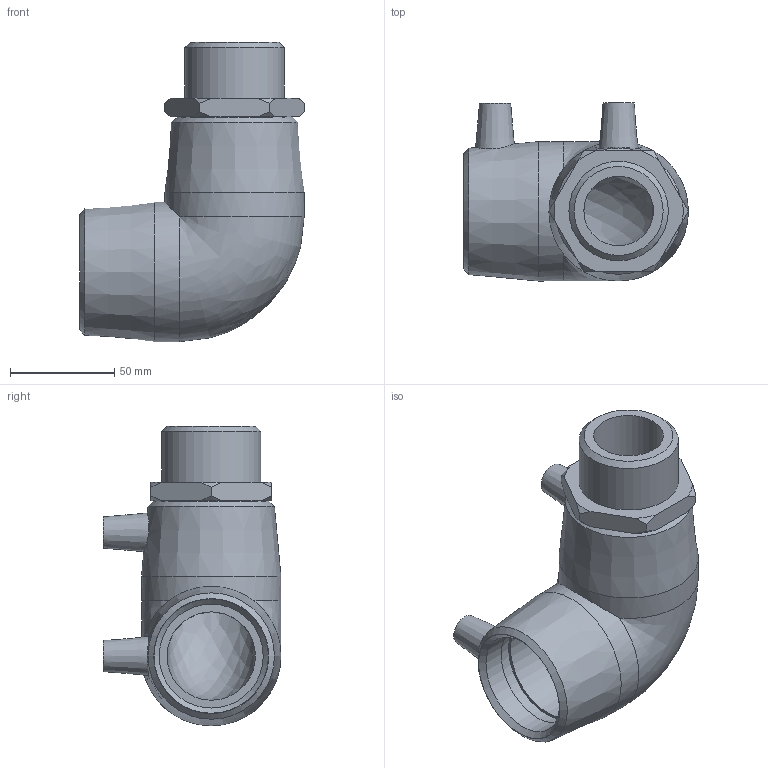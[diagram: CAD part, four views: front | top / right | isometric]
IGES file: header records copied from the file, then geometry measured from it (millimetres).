
Global section: file name: 492504050015.ipt; native system: Autodesk Inventor 2015; preprocessor: unknown; author: KIM; date: 20200202.122348; units: millimetre
Bounding box: 108 x 85.5 x 144 mm (x, y, z)
Volume: 300381.6 mm3; surface area: 67269.6 mm2
Topology: 1 solids, 2 shells, 59 faces, 143 edges, 96 vertices
Faces by surface type: plane 22, cone 19, revolution 10, cylinder 7, bspline 1
Full cylindrical faces by diameter (mm): 4 x2, 47.803 x1, 50 x2, 67 x2
